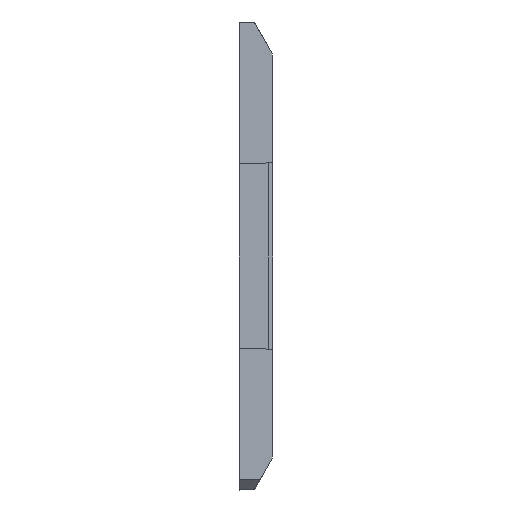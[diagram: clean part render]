
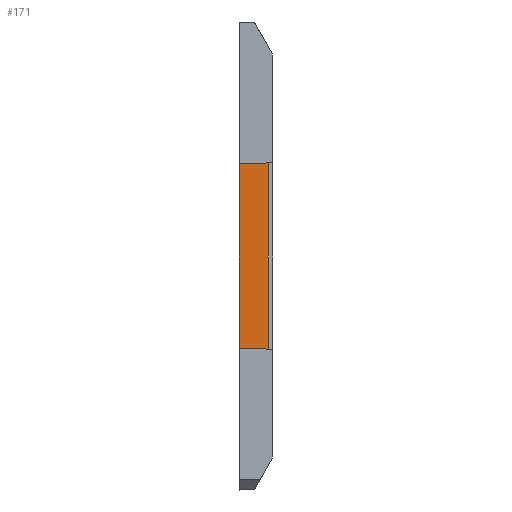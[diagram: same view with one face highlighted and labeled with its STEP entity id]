
A CAD part, left-side view. The second image highlights one B-rep face of the part: STEP entity #171.
In plain terms, the highlighted planar face has unit normal (-1, -0.026, 0).
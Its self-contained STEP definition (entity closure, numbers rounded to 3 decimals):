
#171=ADVANCED_FACE('',(#466),#318,.T.);
#318=PLANE('',#3124);
#466=FACE_OUTER_BOUND('',#623,.T.);
#623=EDGE_LOOP('',(#1150,#1151,#1152,#1153));
#1150=ORIENTED_EDGE('',*,*,#1840,.F.);
#1151=ORIENTED_EDGE('',*,*,#2109,.F.);
#1152=ORIENTED_EDGE('',*,*,#2110,.T.);
#1153=ORIENTED_EDGE('',*,*,#2111,.F.);
#1563=VERTEX_POINT('',#3959);
#1564=VERTEX_POINT('',#3961);
#1780=VERTEX_POINT('',#4503);
#1781=VERTEX_POINT('',#4507);
#1840=EDGE_CURVE('',#1563,#1564,#2256,.T.);
#2109=EDGE_CURVE('',#1780,#1563,#2519,.T.);
#2110=EDGE_CURVE('',#1780,#1781,#2520,.T.);
#2111=EDGE_CURVE('',#1564,#1781,#2521,.T.);
#2256=LINE('',#3960,#2666);
#2519=LINE('',#4504,#2929);
#2520=LINE('',#4506,#2930);
#2521=LINE('',#4508,#2931);
#2666=VECTOR('',#3232,1.);
#2929=VECTOR('',#3607,1.);
#2930=VECTOR('',#3610,1.);
#2931=VECTOR('',#3611,1.);
#3124=AXIS2_PLACEMENT_3D('',#4509,#3612,#3613);
#3232=DIRECTION('',(0.,0.,1.));
#3607=DIRECTION('',(-0.026,0.999,0.026));
#3610=DIRECTION('',(0.,0.,1.));
#3611=DIRECTION('',(0.026,-0.999,0.026));
#3612=DIRECTION('',(-1.,-0.026,0.));
#3613=DIRECTION('',(0.,0.,-1.));
#3959=CARTESIAN_POINT('',(-290.544,-144.239,215.944));
#3960=CARTESIAN_POINT('',(-290.544,-144.239,215.944));
#3961=CARTESIAN_POINT('',(-290.544,-144.239,251.444));
#4503=CARTESIAN_POINT('',(-290.396,-149.887,215.796));
#4504=CARTESIAN_POINT('',(-290.396,-149.887,215.796));
#4506=CARTESIAN_POINT('',(-290.396,-149.887,215.796));
#4507=CARTESIAN_POINT('',(-290.396,-149.887,251.592));
#4508=CARTESIAN_POINT('',(-290.544,-144.239,251.444));
#4509=CARTESIAN_POINT('',(-290.544,-144.239,214.599));
